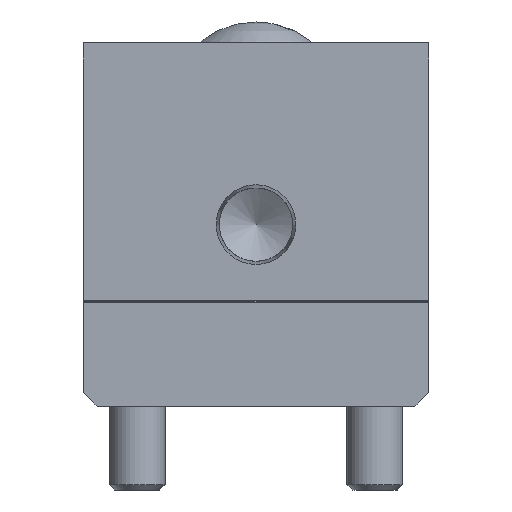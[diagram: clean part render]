
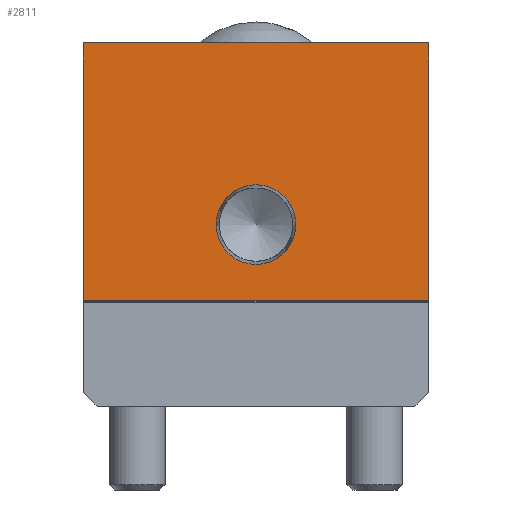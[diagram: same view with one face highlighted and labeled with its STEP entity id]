
A CAD part, front view. The second image highlights one B-rep face of the part: STEP entity #2811.
In plain terms, the highlighted planar face has unit normal (0, -1, 0).
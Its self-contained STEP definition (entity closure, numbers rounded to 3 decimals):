
#154=FACE_BOUND('',#603,.T.);
#230=CIRCLE('',#2992,5.704);
#392=FACE_OUTER_BOUND('',#602,.T.);
#602=EDGE_LOOP('',(#2047,#2048,#2049,#2050));
#603=EDGE_LOOP('',(#2051));
#870=LINE('',#4192,#1088);
#873=LINE('',#4197,#1091);
#875=LINE('',#4205,#1093);
#889=LINE('',#4241,#1107);
#1088=VECTOR('',#3390,36.9);
#1091=VECTOR('',#3395,49.5);
#1093=VECTOR('',#3403,36.9);
#1107=VECTOR('',#3447,49.5);
#1289=VERTEX_POINT('',#4189);
#1290=VERTEX_POINT('',#4191);
#1291=VERTEX_POINT('',#4195);
#1294=VERTEX_POINT('',#4203);
#1298=VERTEX_POINT('',#4217);
#1556=EDGE_CURVE('',#1290,#1289,#870,.T.);
#1559=EDGE_CURVE('',#1289,#1291,#873,.T.);
#1563=EDGE_CURVE('',#1294,#1291,#875,.T.);
#1568=EDGE_CURVE('',#1298,#1298,#230,.T.);
#1581=EDGE_CURVE('',#1294,#1290,#889,.T.);
#2047=ORIENTED_EDGE('',*,*,#1581,.T.);
#2048=ORIENTED_EDGE('',*,*,#1556,.T.);
#2049=ORIENTED_EDGE('',*,*,#1559,.T.);
#2050=ORIENTED_EDGE('',*,*,#1563,.F.);
#2051=ORIENTED_EDGE('',*,*,#1568,.T.);
#2532=PLANE('',#3025);
#2811=ADVANCED_FACE('',(#392,#154),#2532,.T.);
#2992=AXIS2_PLACEMENT_3D('',#4218,#3418,#3419);
#3025=AXIS2_PLACEMENT_3D('',#4279,#3501,#3502);
#3390=DIRECTION('',(0.,0.,1.));
#3395=DIRECTION('',(-1.,0.,0.));
#3403=DIRECTION('',(0.,0.,1.));
#3418=DIRECTION('center_axis',(0.,1.,0.));
#3419=DIRECTION('ref_axis',(1.,0.,0.));
#3447=DIRECTION('',(1.,0.,0.));
#3501=DIRECTION('center_axis',(0.,-1.,0.));
#3502=DIRECTION('ref_axis',(0.,0.,-1.));
#4189=CARTESIAN_POINT('',(24.75,0.,52.));
#4191=CARTESIAN_POINT('',(24.75,0.,15.1));
#4192=CARTESIAN_POINT('',(24.75,0.,0.));
#4195=CARTESIAN_POINT('',(-24.75,0.,52.));
#4197=CARTESIAN_POINT('',(24.75,0.,52.));
#4203=CARTESIAN_POINT('',(-24.75,0.,15.1));
#4205=CARTESIAN_POINT('',(-24.75,0.,0.));
#4217=CARTESIAN_POINT('',(5.704,0.,26.));
#4218=CARTESIAN_POINT('Origin',(0.,0.,26.));
#4241=CARTESIAN_POINT('',(24.75,0.,15.1));
#4279=CARTESIAN_POINT('Origin',(24.75,0.,0.));
